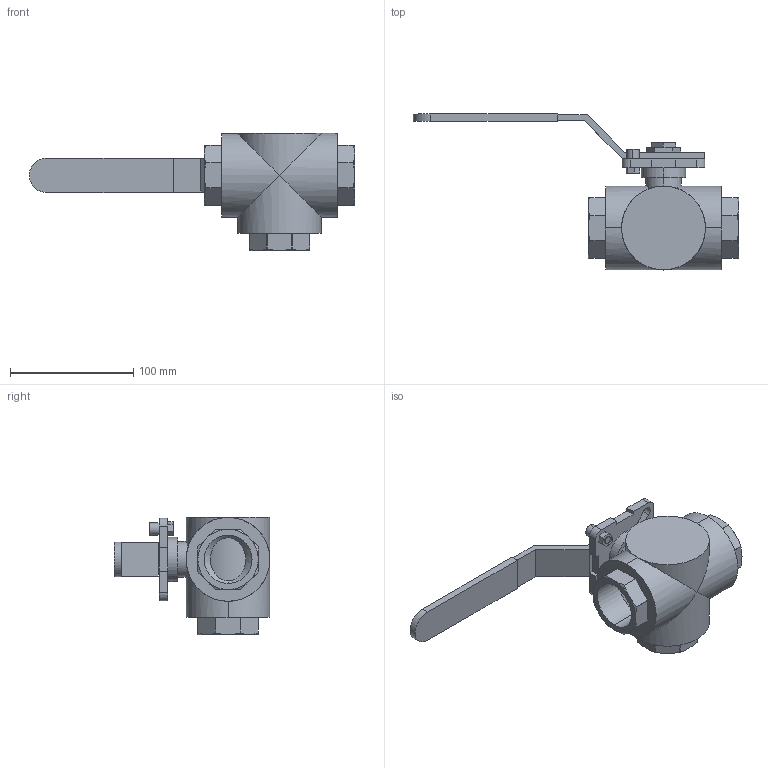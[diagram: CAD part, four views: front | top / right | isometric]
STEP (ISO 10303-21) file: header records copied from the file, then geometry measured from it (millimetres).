
FILE_DESCRIPTION (( 'STEP AP203' ), '1' );
FILE_NAME ('04.622I032IFVPB0.STEP', '2018-10-05T13:37:56', ( '' ), ( '' ), 'SwSTEP 2.0', 'SolidWorks 2014', '' );
FILE_SCHEMA (( 'CONFIG_CONTROL_DESIGN' ));
Length unit declared in the file: millimetre
Products named in the file (1): 04.622I032IFVPB0
Bounding box: 264 x 126.5 x 95 mm (x, y, z)
Volume: 491050.1 mm3; surface area: 78192.6 mm2
Topology: 1 solids, 1 shells, 202 faces, 515 edges, 329 vertices
Faces by surface type: plane 103, cylinder 69, cone 30
Entity records: 6746 total; most frequent: CARTESIAN_POINT 1779, ORIENTED_EDGE 1030, DIRECTION 999, EDGE_CURVE 515, AXIS2_PLACEMENT_3D 349, VERTEX_POINT 329, LINE 301, VECTOR 301
